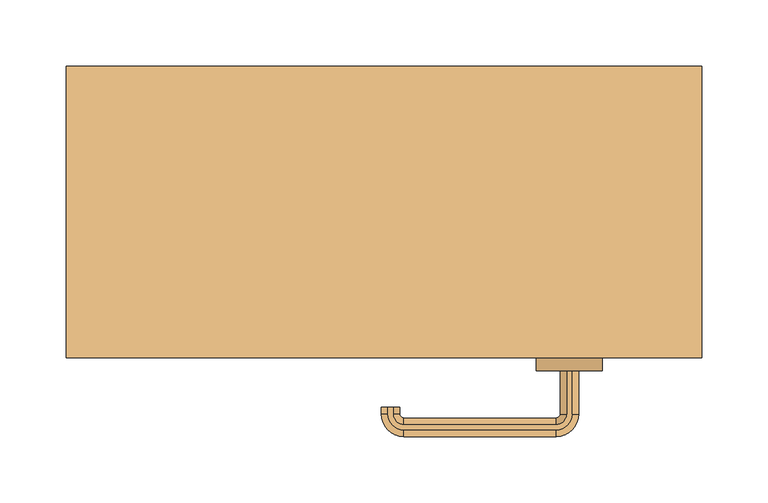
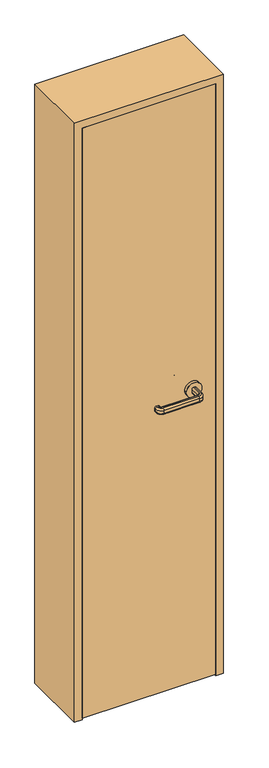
"""IFC4 building model written with IfcOpenShell, lengths in millimetres: door geometry, A1 片開 フラッシュ_A1枠 : SD4_H2000W400."""

import ifcopenshell
import ifcopenshell.guid

model = None  # the IFC model being written
_history = None  # IfcOwnerHistory: only IFC2X3 demands one
_inside = {}  # id of a spatial element -> (the spatial element, [elements in it])
_under = {}  # id of a project, library or spatial element -> (it, [spatial elements below it])
_declared = {}  # id of a project -> (the project, [libraries it declares])
_typed = {}  # id of a type object -> (the type object, [elements of that type])
_made_of = {}  # id of a material, layer set ... -> (it, [elements and type objects made of it])


def new_model(schema):
    """Start an empty IFC model of exactly this schema.

    Asked for "IFC4X3", IfcOpenShell would pick the latest addendum, in which some entities
    have other attributes; the version numbers below select the first issue.
    IFC2X3 requires an IfcOwnerHistory on every rooted entity: one is made here for all.
    """
    global model, _history
    if schema == "IFC4X3":
        model = ifcopenshell.file(schema_version=(4, 3, 0, 0))
    else:
        model = ifcopenshell.file(schema=schema)
    _inside.clear()
    _under.clear()
    _declared.clear()
    _typed.clear()
    _made_of.clear()
    _history = None
    if model.schema == "IFC2X3":
        org = make("IfcOrganization", Name="unknown")
        user = make(
            "IfcPersonAndOrganization",
            ThePerson=make("IfcPerson", FamilyName="unknown"),
            TheOrganization=org,
        )
        app = make(
            "IfcApplication",
            ApplicationDeveloper=org,
            Version="unknown",
            ApplicationFullName="unknown",
            ApplicationIdentifier="unknown",
        )
        _history = make(
            "IfcOwnerHistory",
            OwningUser=user,
            OwningApplication=app,
            ChangeAction="ADDED",
            CreationDate=0,
        )
    return model


def make(cls, **values):
    """One entity of the class cls with the attributes given. An attribute that is None is left unset."""
    return model.create_entity(
        cls, **{name: value for name, value in values.items() if value is not None}
    )


def rooted(cls, **values):
    """An entity with a GlobalId (a new one), such as an element, a storey or a relation."""
    return make(cls, GlobalId=ifcopenshell.guid.new(), OwnerHistory=_history, **values)


def si_unit(unit_type, name, prefix=None):
    """IfcSIUnit, for example si_unit("LENGTHUNIT", "METRE", prefix="MILLI")."""
    return make("IfcSIUnit", UnitType=unit_type, Prefix=prefix, Name=name)


def assignment(units):
    """IfcUnitAssignment: the units of a project."""
    return None if units is None else make("IfcUnitAssignment", Units=units)


def point(xyz):
    """IfcCartesianPoint."""
    return None if xyz is None else make("IfcCartesianPoint", Coordinates=xyz)


def direction(xyz):
    """IfcDirection."""
    return None if xyz is None else make("IfcDirection", DirectionRatios=xyz)


def frame(location, z_axis=None, x_axis=None):
    """IfcAxis2Placement3D, a coordinate frame: its origin and axes. An axis left out is left unset."""
    return make(
        "IfcAxis2Placement3D",
        Location=point(location),
        Axis=direction(z_axis),
        RefDirection=direction(x_axis),
    )


def frame_2d(location, x_axis=None):
    """IfcAxis2Placement2D, a coordinate frame in the plane: its origin and x axis."""
    return make(
        "IfcAxis2Placement2D", Location=point(location), RefDirection=direction(x_axis)
    )


def origin():
    """The frame at (0, 0, 0) with its axes left unset."""
    return frame((0.0, 0.0, 0.0))


def place(relative_to, where):
    """IfcLocalPlacement: puts the frame where relative to a parent placement (None: the world)."""
    return make(
        "IfcLocalPlacement", PlacementRelTo=relative_to, RelativePlacement=where
    )


def context(
    kind, dimensions, precision=None, world=None, true_north=None, identifier=None
):
    """IfcGeometricRepresentationContext, for example the 3D "Model" context."""
    return make(
        "IfcGeometricRepresentationContext",
        ContextIdentifier=identifier,
        ContextType=kind,
        CoordinateSpaceDimension=dimensions,
        Precision=precision,
        WorldCoordinateSystem=world,
        TrueNorth=true_north,
    )


def project(units=None, contexts=None):
    """IfcProject with its units and contexts."""
    return rooted(
        "IfcProject",
        Name="project",
        RepresentationContexts=contexts,
        UnitsInContext=assignment(units),
    )


def spatial(cls, under=None, at=None, **own):
    """A site, building, storey or space (cls), placed at a placement, below another one or the project."""
    s = rooted(cls, ObjectPlacement=at, **own)
    if under is not None:
        _under.setdefault(under.id(), (under, []))[1].append(s)
    return s


def polyline(points):
    """IfcPolyline through the points."""
    return make("IfcPolyline", Points=[point(p) for p in points])


def circle_curve(where, radius):
    """IfcCircle in the frame where."""
    return make("IfcCircle", Position=where, Radius=radius)


def ellipse_curve(where, semi_axis1, semi_axis2):
    """IfcEllipse in the frame where."""
    return make(
        "IfcEllipse", Position=where, SemiAxis1=semi_axis1, SemiAxis2=semi_axis2
    )


def trimmed(basis, trim1, trim2, sense, master):
    """IfcTrimmedCurve: the piece of a basis curve between two trims."""
    return make(
        "IfcTrimmedCurve",
        BasisCurve=basis,
        Trim1=trim1,
        Trim2=trim2,
        SenseAgreement=sense,
        MasterRepresentation=master,
    )


def segment(curve, same_sense, transition):
    """IfcCompositeCurveSegment."""
    return make(
        "IfcCompositeCurveSegment",
        Transition=transition,
        SameSense=same_sense,
        ParentCurve=curve,
    )


def composite_curve(segments, self_intersect=None):
    """IfcCompositeCurve: segments joined end to end."""
    return make("IfcCompositeCurve", Segments=segments, SelfIntersect=self_intersect)


def outline(outer, holes=None, kind="AREA"):
    """IfcArbitraryClosedProfileDef: a profile drawn as a closed curve; with holes, ...WithVoids."""
    if holes is None:
        return make("IfcArbitraryClosedProfileDef", ProfileType=kind, OuterCurve=outer)
    return make(
        "IfcArbitraryProfileDefWithVoids",
        ProfileType=kind,
        OuterCurve=outer,
        InnerCurves=holes,
    )


def extrude(swept, where, along, depth):
    """IfcExtrudedAreaSolid: the profile swept, set in the frame where, extruded along a direction by depth."""
    return make(
        "IfcExtrudedAreaSolid",
        SweptArea=swept,
        Position=where,
        ExtrudedDirection=direction(along),
        Depth=depth,
    )


def faces_of(points, faces, orient=None, outer=None):
    """IfcFace entities. A face is a list of loops; a loop is a list of indices into points, from 0.

    orient and outer hold one flag for each loop. By default every Orientation is true, the
    first loop of a face is its IfcFaceOuterBound and the others are IfcFaceBound.
    """
    made = []
    for i, loops in enumerate(faces):
        bounds = []
        for j, loop in enumerate(loops):
            is_outer = j == 0 if outer is None else outer[i][j]
            bounds.append(
                make(
                    "IfcFaceOuterBound" if is_outer else "IfcFaceBound",
                    Bound=make("IfcPolyLoop", Polygon=[points[k] for k in loop]),
                    Orientation=True if orient is None else orient[i][j],
                )
            )
        made.append(make("IfcFace", Bounds=bounds))
    return made


def faceted_brep(points, faces, orient=None, outer=None, voids=None):
    """IfcFacetedBrep: a solid bounded by flat faces; with voids (closed shells), ...WithVoids."""
    shared = [point(p) for p in points]
    hull = make("IfcClosedShell", CfsFaces=faces_of(shared, faces, orient, outer))
    if voids is None:
        return make("IfcFacetedBrep", Outer=hull)
    return make(
        "IfcFacetedBrepWithVoids",
        Outer=hull,
        Voids=[
            make(cls, CfsFaces=faces_of(shared, fs, o, b)) for cls, fs, o, b in voids
        ],
    )


def shape(context_of_items, identifier, shape_type, items):
    """IfcShapeRepresentation: the items that make up one representation, for example the "Body"."""
    return make(
        "IfcShapeRepresentation",
        ContextOfItems=context_of_items,
        RepresentationIdentifier=identifier,
        RepresentationType=shape_type,
        Items=items,
    )


def source(mapping_origin, context_of_items, identifier, shape_type, items):
    """IfcRepresentationMap: a shape defined once, which mapped items show again and again."""
    return make(
        "IfcRepresentationMap",
        MappingOrigin=mapping_origin,
        MappedRepresentation=shape(context_of_items, identifier, shape_type, items),
    )


def transform(
    local_origin,
    x_axis=None,
    y_axis=None,
    z_axis=None,
    scale=None,
    scale2=None,
    scale3=None,
    uniform=True,
):
    """IfcCartesianTransformationOperator3D, or its non-uniform kind. x_axis, y_axis, z_axis: its Axis1, 2, 3."""
    if uniform:
        return make(
            "IfcCartesianTransformationOperator3D",
            Axis1=direction(x_axis),
            Axis2=direction(y_axis),
            LocalOrigin=point(local_origin),
            Scale=scale,
            Axis3=direction(z_axis),
        )
    return make(
        "IfcCartesianTransformationOperator3DnonUniform",
        Axis1=direction(x_axis),
        Axis2=direction(y_axis),
        LocalOrigin=point(local_origin),
        Scale=scale,
        Axis3=direction(z_axis),
        Scale2=scale2,
        Scale3=scale3,
    )


def mapped(mapping_source, mapping_target):
    """IfcMappedItem: shows the shape of a source again, moved by a transform."""
    return make(
        "IfcMappedItem", MappingSource=mapping_source, MappingTarget=mapping_target
    )


def made_of(thing, what):
    """Note that an element or type object is made of a material, layer set ...; save() writes the relation."""
    if what is not None:
        _made_of.setdefault(what.id(), (what, []))[1].append(thing)
    return thing


def element(
    cls,
    number,
    at=None,
    inside=None,
    cuts=None,
    type_object=None,
    material=None,
    context=None,
    identifier="Body",
    shape_type=None,
    held_by="IfcProductDefinitionShape",
    body=None,
    shapes=None,
    **own,
):
    """One element of the class cls, such as IfcWall. Its Tag is "e" and its number.

    at: its placement. inside: the storey or other place that contains it. cuts: it is an
    opening in that element (IfcRelVoidsElement). A single representation is given by context,
    identifier, shape_type and body (its items); several are given by shapes. held_by: the class
    of the entity that holds the representations. save() writes the other relations.
    """
    e = rooted(cls, Tag="e%d" % number, ObjectPlacement=at, **own)
    if body is not None:
        shapes = [shape(context, identifier, shape_type, body)]
    if shapes is not None:
        e.Representation = make(held_by, Representations=shapes)
    if inside is not None:
        _inside.setdefault(inside.id(), (inside, []))[1].append(e)
    if cuts is not None:
        rooted(
            "IfcRelVoidsElement", RelatingBuildingElement=cuts, RelatedOpeningElement=e
        )
    if type_object is not None:
        _typed.setdefault(type_object.id(), (type_object, []))[1].append(e)
    return made_of(e, material)


def aggregate(whole, parts):
    """IfcRelAggregates: a whole, such as a stair, and the parts it consists of."""
    return rooted("IfcRelAggregates", RelatingObject=whole, RelatedObjects=parts)


def save(model, path):
    """Write the relations noted so far, then the file.

    IfcRelAggregates (storeys below a building ...), IfcRelContainedInSpatialStructure (elements
    in a storey), IfcRelDefinesByType, IfcRelAssociatesMaterial and IfcRelDeclares: one each for
    every whole, place, type object, material and project.
    """
    for whole, parts in _under.values():
        aggregate(whole, parts)
    for where, things in _inside.values():
        rooted(
            "IfcRelContainedInSpatialStructure",
            RelatedElements=things,
            RelatingStructure=where,
        )
    for kind, things in _typed.values():
        rooted("IfcRelDefinesByType", RelatedObjects=things, RelatingType=kind)
    for what, things in _made_of.values():
        rooted("IfcRelAssociatesMaterial", RelatedObjects=things, RelatingMaterial=what)
    for by, libraries in _declared.values():
        rooted("IfcRelDeclares", RelatingContext=by, RelatedDefinitions=libraries)
    model.write(path)


def plane_surface(at):
    """IfcPlane: the flat surface through the origin of the frame at, square to its z axis."""
    return make("IfcPlane", Position=at)


def cylinder_surface(at, radius):
    """IfcCylindricalSurface: all points at the distance radius from the z axis of the frame at."""
    return make("IfcCylindricalSurface", Position=at, Radius=radius)


def revolved_surface(curve, axis_point, axis_direction):
    """IfcSurfaceOfRevolution: the curve turned about the line through axis_point along axis_direction."""
    return make(
        "IfcSurfaceOfRevolution",
        SweptCurve=make("IfcArbitraryOpenProfileDef", ProfileType="CURVE", Curve=curve),
        AxisPosition=make("IfcAxis1Placement", Location=point(axis_point), Axis=direction(axis_direction)),
    )


def advanced_brep(points, edges, surfaces, faces):
    """IfcAdvancedBrep: a solid bounded by faces that lie on surfaces and meet in shared edges.

    An edge is (start, end): straight between two places in points (the first is 0);
    or (start, end, curve); or (start, end, curve, False) where it runs against its curve.
    A face is (place in surfaces, loops), or (place, loops, False) where it looks against
    its surface's normal. A loop lists edges by number (the first is 1), with a minus sign
    where the edge is run from its end to its start. The first loop is the outer one.
    """
    corners = [point(p) for p in points]
    vertices = [make("IfcVertexPoint", VertexGeometry=c) for c in corners]
    made = []
    for start, end, *more in edges:
        made.append(
            make(
                "IfcEdgeCurve",
                EdgeStart=vertices[start],
                EdgeEnd=vertices[end],
                EdgeGeometry=more[0] if more else make("IfcPolyline", Points=[corners[start], corners[end]]),
                SameSense=more[1] if len(more) > 1 else True,
            )
        )
    hull = []
    for where, loops, *sense in faces:
        bounds = []
        for j, loop in enumerate(loops):
            ring = [make("IfcOrientedEdge", EdgeElement=made[abs(k) - 1], Orientation=k > 0) for k in loop]
            bounds.append(
                make(
                    "IfcFaceOuterBound" if j == 0 else "IfcFaceBound",
                    Bound=make("IfcEdgeLoop", EdgeList=ring),
                    Orientation=True,
                )
            )
        hull.append(make("IfcAdvancedFace", Bounds=bounds, FaceSurface=surfaces[where], SameSense=sense[0] if sense else True))
    return make("IfcAdvancedBrep", Outer=make("IfcClosedShell", CfsFaces=hull))


def door_b2e5d67d(model_context):
    return source(origin(), model_context, "Body", "SolidModel", [
        advanced_brep(
        [(142.0, -120.0, 1015.0), (147.0, -120.0, 1010.0), (147.0, -120.0, 1000.0477623), (142.0, -120.0, 995.0477623), (138.0, -120.0, 995.0477623), (133.0, -120.0, 1000.0477623), (133.0, -120.0, 1010.0), (138.0, -120.0, 1015.0), (142.0, -152.5, 1015.0), (147.0, -152.5, 1010.0), (147.0, -152.5, 1000.0477623), (142.0, -152.5, 995.0477623), (130.0, -164.5, 995.0477623), (15.0, -164.5, 995.0477623), (3.0, -152.5, 995.0477623), (3.0, -147.5, 995.0477623), (7.0, -147.5, 995.0477623), (7.0, -152.5, 995.0477623), (15.0, -160.5, 995.0477623), (130.0, -160.5, 995.0477623), (138.0, -152.5, 995.0477623), (133.0, -152.5, 1000.0477623), (133.0, -152.5, 1010.0), (138.0, -152.5, 1015.0), (130.0, -160.5, 1015.0), (15.0, -160.5, 1015.0), (7.0, -152.5, 1015.0), (7.0, -147.5, 1015.0), (3.0, -147.5, 1015.0), (3.0, -152.5, 1015.0), (15.0, -164.5, 1015.0), (130.0, -164.5, 1015.0), (130.0, -169.5, 1010.0), (130.0, -169.5, 1000.0477623), (130.0, -155.5, 1000.0477623), (130.0, -155.5, 1010.0), (15.0, -169.5, 1010.0), (15.0, -169.5, 1000.0477623), (15.0, -155.5, 1000.0477623), (15.0, -155.5, 1010.0), (-2.0, -152.5, 1010.0), (-2.0, -152.5, 1000.0477623), (12.0, -152.5, 1000.0477623), (12.0, -152.5, 1010.0), (12.0, -147.5, 1010.0), (12.0, -147.5, 1000.0477623), (-2.0, -147.5, 1000.0477623), (-2.0, -147.5, 1010.0)],
        [
            (0, 1, circle_curve(frame((142.0, -120.0, 1010.0), z_axis=(0.0, 1.0, 0.0), x_axis=(1.0, 0.0, 0.0)), 5.0)),
            (1, 2),
            (2, 3, circle_curve(frame((142.0, -120.0, 1000.0477623), z_axis=(0.0, 1.0, 0.0), x_axis=(1.0, 0.0, 0.0)), 5.0)),
            (3, 4),
            (4, 5, circle_curve(frame((138.0, -120.0, 1000.0477623), z_axis=(0.0, 1.0, 0.0), x_axis=(1.0, 0.0, 0.0)), 5.0)),
            (5, 6),
            (6, 7, circle_curve(frame((138.0, -120.0, 1010.0), z_axis=(0.0, 1.0, 0.0), x_axis=(1.0, 0.0, 0.0)), 5.0)),
            (7, 0),
            (0, 8),
            (8, 9, circle_curve(frame((142.0, -152.5, 1010.0), z_axis=(0.0, 1.0, 0.0), x_axis=(1.0, 0.0, 0.0)), 5.0)),
            (9, 1),
            (9, 10),
            (10, 2),
            (10, 11, circle_curve(frame((142.0, -152.5, 1000.0477623), z_axis=(0.0, 1.0, 0.0), x_axis=(1.0, 0.0, 0.0)), 5.0)),
            (11, 3),
            (11, 12, circle_curve(frame((130.0, -152.5, 995.0477623), z_axis=(0.0, 0.0, -1.0), x_axis=(1.0, 0.0, 0.0)), 12.0)),
            (12, 13),
            (13, 14, circle_curve(frame((15.0, -152.5, 995.0477623), z_axis=(0.0, 0.0, -1.0), x_axis=(0.0, -1.0, 0.0)), 12.0)),
            (14, 15),
            (15, 16),
            (16, 17),
            (17, 18, circle_curve(frame((15.0, -152.5, 995.0477623), z_axis=(0.0, 0.0, 1.0), x_axis=(0.0, -1.0, 0.0)), 8.0)),
            (18, 19),
            (19, 20, circle_curve(frame((130.0, -152.5, 995.0477623), z_axis=(0.0, 0.0, 1.0), x_axis=(1.0, 0.0, 0.0)), 8.0)),
            (20, 4),
            (20, 21, circle_curve(frame((138.0, -152.5, 1000.0477623), z_axis=(0.0, 1.0, 0.0), x_axis=(1.0, 0.0, 0.0)), 5.0)),
            (21, 5),
            (21, 22),
            (22, 6),
            (22, 23, circle_curve(frame((138.0, -152.5, 1010.0), z_axis=(0.0, 1.0, 0.0), x_axis=(1.0, 0.0, 0.0)), 5.0)),
            (23, 7),
            (23, 24, circle_curve(frame((130.0, -152.5, 1015.0), z_axis=(0.0, 0.0, -1.0), x_axis=(1.0, 0.0, 0.0)), 8.0)),
            (24, 25),
            (25, 26, circle_curve(frame((15.0, -152.5, 1015.0), z_axis=(0.0, 0.0, -1.0), x_axis=(0.0, -1.0, 0.0)), 8.0)),
            (26, 27),
            (27, 28),
            (28, 29),
            (29, 30, circle_curve(frame((15.0, -152.5, 1015.0), z_axis=(0.0, 0.0, 1.0), x_axis=(0.0, -1.0, 0.0)), 12.0)),
            (30, 31),
            (31, 8, circle_curve(frame((130.0, -152.5, 1015.0), z_axis=(0.0, 0.0, 1.0), x_axis=(1.0, 0.0, 0.0)), 12.0)),
            (32, 9, circle_curve(frame((130.0, -152.5, 1010.0), z_axis=(0.0, 0.0, 1.0), x_axis=(1.0, 0.0, 0.0)), 17.0)),
            (31, 32, circle_curve(frame((130.0, -164.5, 1010.0), z_axis=(1.0, 0.0, 0.0), x_axis=(0.0, -1.0, 0.0)), 5.0)),
            (33, 10, circle_curve(frame((130.0, -152.5, 1000.0477623), z_axis=(0.0, 0.0, 1.0), x_axis=(1.0, 0.0, 0.0)), 17.0)),
            (32, 33),
            (33, 12, circle_curve(frame((130.0, -164.5, 1000.0477623), z_axis=(1.0, 0.0, 0.0), x_axis=(0.0, -1.0, 0.0)), 5.0)),
            (34, 21, circle_curve(frame((130.0, -152.5, 1000.0477623), z_axis=(0.0, 0.0, 1.0), x_axis=(1.0, 0.0, 0.0)), 3.0)),
            (19, 34, circle_curve(frame((130.0, -160.5, 1000.0477623), z_axis=(1.0, 0.0, 0.0), x_axis=(0.0, -1.0, 0.0)), 5.0)),
            (35, 22, circle_curve(frame((130.0, -152.5, 1010.0), z_axis=(0.0, 0.0, 1.0), x_axis=(1.0, 0.0, 0.0)), 3.0)),
            (34, 35),
            (35, 24, circle_curve(frame((130.0, -160.5, 1010.0), z_axis=(1.0, 0.0, 0.0), x_axis=(0.0, -1.0, 0.0)), 5.0)),
            (30, 36, circle_curve(frame((15.0, -164.5, 1010.0), z_axis=(1.0, 0.0, 0.0), x_axis=(0.0, -1.0, 0.0)), 5.0)),
            (36, 32),
            (36, 37),
            (37, 33),
            (37, 13, circle_curve(frame((15.0, -164.5, 1000.0477623), z_axis=(1.0, 0.0, 0.0), x_axis=(0.0, -1.0, 0.0)), 5.0)),
            (18, 38, circle_curve(frame((15.0, -160.5, 1000.0477623), z_axis=(1.0, 0.0, 0.0), x_axis=(0.0, -1.0, 0.0)), 5.0)),
            (38, 34),
            (38, 39),
            (39, 35),
            (39, 25, circle_curve(frame((15.0, -160.5, 1010.0), z_axis=(1.0, 0.0, 0.0), x_axis=(0.0, -1.0, 0.0)), 5.0)),
            (40, 36, circle_curve(frame((15.0, -152.5, 1010.0), z_axis=(0.0, 0.0, 1.0), x_axis=(0.0, -1.0, 0.0)), 17.0)),
            (29, 40, circle_curve(frame((3.0, -152.5, 1010.0), z_axis=(0.0, -1.0, 0.0), x_axis=(-1.0, 0.0, 0.0)), 5.0)),
            (41, 37, circle_curve(frame((15.0, -152.5, 1000.0477623), z_axis=(0.0, 0.0, 1.0), x_axis=(0.0, -1.0, 0.0)), 17.0)),
            (40, 41),
            (41, 14, circle_curve(frame((3.0, -152.5, 1000.0477623), z_axis=(0.0, -1.0, 0.0), x_axis=(-1.0, 0.0, 0.0)), 5.0)),
            (42, 38, circle_curve(frame((15.0, -152.5, 1000.0477623), z_axis=(0.0, 0.0, 1.0), x_axis=(0.0, -1.0, 0.0)), 3.0)),
            (17, 42, circle_curve(frame((7.0, -152.5, 1000.0477623), z_axis=(0.0, -1.0, 0.0), x_axis=(-1.0, 0.0, 0.0)), 5.0)),
            (43, 39, circle_curve(frame((15.0, -152.5, 1010.0), z_axis=(0.0, 0.0, 1.0), x_axis=(0.0, -1.0, 0.0)), 3.0)),
            (42, 43),
            (43, 26, circle_curve(frame((7.0, -152.5, 1010.0), z_axis=(0.0, -1.0, 0.0), x_axis=(-1.0, 0.0, 0.0)), 5.0)),
            (27, 44, circle_curve(frame((7.0, -147.5, 1010.0), z_axis=(0.0, 1.0, 0.0), x_axis=(-1.0, 0.0, 0.0)), 5.0)),
            (44, 45),
            (45, 16, circle_curve(frame((7.0, -147.5, 1000.0477623), z_axis=(0.0, 1.0, 0.0), x_axis=(-1.0, 0.0, 0.0)), 5.0)),
            (15, 46, circle_curve(frame((3.0, -147.5, 1000.0477623), z_axis=(0.0, 1.0, 0.0), x_axis=(-1.0, 0.0, 0.0)), 5.0)),
            (46, 47),
            (47, 28, circle_curve(frame((3.0, -147.5, 1010.0), z_axis=(0.0, 1.0, 0.0), x_axis=(-1.0, 0.0, 0.0)), 5.0)),
            (47, 40),
            (46, 41),
            (45, 42),
            (44, 43),
        ],
        [
            plane_surface(frame((150.198039, -120.0, 1005.0), z_axis=(0.0, 1.0, 0.0), x_axis=(0.0, 0.0, 1.0))),
            cylinder_surface(frame((142.0, -120.0, 1010.0), z_axis=(0.0, 1.0, 0.0), x_axis=(1.0, 0.0, 0.0)), 5.0),
            plane_surface(frame((147.0, -120.0, 1010.0), z_axis=(1.0, 0.0, 0.0), x_axis=(0.0, -1.0, 0.0))),
            cylinder_surface(frame((142.0, -120.0, 1000.0477623), z_axis=(0.0, 1.0, 0.0), x_axis=(1.0, 0.0, 0.0)), 5.0),
            plane_surface(frame((142.0, -120.0, 995.0477623), z_axis=(0.0, 0.0, -1.0), x_axis=(0.0, -1.0, 0.0))),
            cylinder_surface(frame((138.0, -120.0, 1000.0477623), z_axis=(0.0, 1.0, 0.0), x_axis=(1.0, 0.0, 0.0)), 5.0),
            plane_surface(frame((133.0, -120.0, 1000.0477623), z_axis=(-1.0, 0.0, 0.0), x_axis=(0.0, -1.0, 0.0))),
            cylinder_surface(frame((138.0, -120.0, 1010.0), z_axis=(0.0, 1.0, 0.0), x_axis=(1.0, 0.0, 0.0)), 5.0),
            plane_surface(frame((138.0, -120.0, 1015.0), z_axis=(0.0, 0.0, 1.0), x_axis=(0.0, -1.0, 0.0))),
            revolved_surface(trimmed(ellipse_curve(frame((142.0, -152.5, 1010.0), z_axis=(0.0, 1.0, 0.0), x_axis=(1.0, 0.0, 0.0)), 5.0, 5.0), [point((142.0, -152.5, 1015.0))], [point((147.0, -152.5, 1010.0))], True, "CARTESIAN"), (130.0, -152.5, 1005.0), (0.0, 0.0, -1.0)),
            cylinder_surface(frame((130.0, -152.5, 1005.0), z_axis=(0.0, 0.0, -1.0), x_axis=(1.0, 0.0, 0.0)), 17.0),
            revolved_surface(trimmed(ellipse_curve(frame((142.0, -152.5, 1000.0477623), z_axis=(0.0, 1.0, 0.0), x_axis=(1.0, 0.0, 0.0)), 5.0, 5.0), [point((147.0, -152.5, 1000.0477623))], [point((142.0, -152.5, 995.0477623))], True, "CARTESIAN"), (130.0, -152.5, 1005.0), (0.0, 0.0, -1.0)),
            revolved_surface(trimmed(ellipse_curve(frame((138.0, -152.5, 1000.0477623), z_axis=(0.0, 1.0, 0.0), x_axis=(1.0, 0.0, 0.0)), 5.0, 5.0), [point((138.0, -152.5, 995.0477623))], [point((133.0, -152.5, 1000.0477623))], True, "CARTESIAN"), (130.0, -152.5, 1005.0), (0.0, 0.0, -1.0)),
            revolved_surface(polyline([(133.0, -152.5, 1000.0477623), (133.0, -152.5, 1010.0)]), (130.0, -152.5, 1005.0), (0.0, 0.0, -1.0)),
            revolved_surface(trimmed(ellipse_curve(frame((138.0, -152.5, 1010.0), z_axis=(0.0, 1.0, 0.0), x_axis=(1.0, 0.0, 0.0)), 5.0, 5.0), [point((133.0, -152.5, 1010.0))], [point((138.0, -152.5, 1015.0))], True, "CARTESIAN"), (130.0, -152.5, 1005.0), (0.0, 0.0, -1.0)),
            cylinder_surface(frame((130.0, -164.5, 1010.0), z_axis=(1.0, 0.0, 0.0), x_axis=(0.0, -1.0, 0.0)), 5.0),
            plane_surface(frame((130.0, -169.5, 1010.0), z_axis=(0.0, -1.0, 0.0), x_axis=(-1.0, 0.0, 0.0))),
            cylinder_surface(frame((130.0, -164.5, 1000.0477623), z_axis=(1.0, 0.0, 0.0), x_axis=(0.0, -1.0, 0.0)), 5.0),
            cylinder_surface(frame((130.0, -160.5, 1000.0477623), z_axis=(1.0, 0.0, 0.0), x_axis=(0.0, -1.0, 0.0)), 5.0),
            plane_surface(frame((130.0, -155.5, 1000.0477623), z_axis=(0.0, 1.0, 0.0), x_axis=(-1.0, 0.0, 0.0))),
            cylinder_surface(frame((130.0, -160.5, 1010.0), z_axis=(1.0, 0.0, 0.0), x_axis=(0.0, -1.0, 0.0)), 5.0),
            revolved_surface(trimmed(ellipse_curve(frame((15.0, -164.5, 1010.0), z_axis=(1.0, 0.0, 0.0), x_axis=(0.0, -1.0, 0.0)), 5.0, 5.0), [point((15.0, -164.5, 1015.0))], [point((15.0, -169.5, 1010.0))], True, "CARTESIAN"), (15.0, -152.5, 1005.0), (0.0, 0.0, -1.0)),
            cylinder_surface(frame((15.0, -152.5, 1005.0), z_axis=(0.0, 0.0, -1.0), x_axis=(0.0, -1.0, 0.0)), 17.0),
            revolved_surface(trimmed(ellipse_curve(frame((15.0, -164.5, 1000.0477623), z_axis=(1.0, 0.0, 0.0), x_axis=(0.0, -1.0, 0.0)), 5.0, 5.0), [point((15.0, -169.5, 1000.0477623))], [point((15.0, -164.5, 995.0477623))], True, "CARTESIAN"), (15.0, -152.5, 1005.0), (0.0, 0.0, -1.0)),
            revolved_surface(trimmed(ellipse_curve(frame((15.0, -160.5, 1000.0477623), z_axis=(1.0, 0.0, 0.0), x_axis=(0.0, -1.0, 0.0)), 5.0, 5.0), [point((15.0, -160.5, 995.0477623))], [point((15.0, -155.5, 1000.0477623))], True, "CARTESIAN"), (15.0, -152.5, 1005.0), (0.0, 0.0, -1.0)),
            revolved_surface(polyline([(15.0, -155.5, 1000.0477623), (15.0, -155.5, 1010.0)]), (15.0, -152.5, 1005.0), (0.0, 0.0, -1.0)),
            revolved_surface(trimmed(ellipse_curve(frame((15.0, -160.5, 1010.0), z_axis=(1.0, 0.0, 0.0), x_axis=(0.0, -1.0, 0.0)), 5.0, 5.0), [point((15.0, -155.5, 1010.0))], [point((15.0, -160.5, 1015.0))], True, "CARTESIAN"), (15.0, -152.5, 1005.0), (0.0, 0.0, -1.0)),
            plane_surface(frame((15.198039, -147.5, 1005.0), z_axis=(0.0, 1.0, 0.0), x_axis=(0.0, 0.0, -1.0))),
            cylinder_surface(frame((3.0, -152.5, 1010.0), z_axis=(0.0, -1.0, 0.0), x_axis=(-1.0, 0.0, 0.0)), 5.0),
            plane_surface(frame((-2.0, -152.5, 1010.0), z_axis=(-1.0, 0.0, 0.0), x_axis=(0.0, 1.0, 0.0))),
            cylinder_surface(frame((3.0, -152.5, 1000.0477623), z_axis=(0.0, -1.0, 0.0), x_axis=(-1.0, 0.0, 0.0)), 5.0),
            cylinder_surface(frame((7.0, -152.5, 1000.0477623), z_axis=(0.0, -1.0, 0.0), x_axis=(-1.0, 0.0, 0.0)), 5.0),
            plane_surface(frame((12.0, -152.5, 1000.0477623), z_axis=(1.0, 0.0, 0.0), x_axis=(0.0, 1.0, 0.0))),
            cylinder_surface(frame((7.0, -152.5, 1010.0), z_axis=(0.0, -1.0, 0.0), x_axis=(-1.0, 0.0, 0.0)), 5.0),
        ],
        [
            (0, [[1, 2, 3, 4, 5, 6, 7, 8]]),
            (1, [[-1, 9, 10, 11]]),
            (2, [[-2, -11, 12, 13]]),
            (3, [[-3, -13, 14, 15]]),
            (4, [[-4, -15, 16, 17, 18, 19, 20, 21, 22, 23, 24, 25]]),
            (5, [[-5, -25, 26, 27]]),
            (6, [[-6, -27, 28, 29]]),
            (7, [[-7, -29, 30, 31]]),
            (8, [[-8, -31, 32, 33, 34, 35, 36, 37, 38, 39, 40, -9]]),
            (9, [[41, -10, -40, 42]]),
            (10, [[43, -12, -41, 44]]),
            (11, [[-16, -14, -43, 45]]),
            (12, [[46, -26, -24, 47]]),
            (13, [[48, -28, -46, 49]]),
            (14, [[-32, -30, -48, 50]]),
            (15, [[-42, -39, 51, 52]]),
            (16, [[-44, -52, 53, 54]]),
            (17, [[-45, -54, 55, -17]]),
            (18, [[-47, -23, 56, 57]]),
            (19, [[-49, -57, 58, 59]]),
            (20, [[-50, -59, 60, -33]]),
            (21, [[61, -51, -38, 62]]),
            (22, [[63, -53, -61, 64]]),
            (23, [[-18, -55, -63, 65]]),
            (24, [[66, -56, -22, 67]]),
            (25, [[68, -58, -66, 69]]),
            (26, [[-34, -60, -68, 70]]),
            (27, [[-36, 71, 72, 73, -20, 74, 75, 76]]),
            (28, [[-62, -37, -76, 77]]),
            (29, [[-64, -77, -75, 78]]),
            (30, [[-65, -78, -74, -19]]),
            (31, [[-67, -21, -73, 79]]),
            (32, [[-69, -79, -72, 80]]),
            (33, [[-70, -80, -71, -35]]),
        ],
    ),
        advanced_brep(
        [(138.0, -55.0, 995.0), (142.0, -55.0, 995.0), (147.0, -55.0, 1000.0), (147.0, -55.0, 1010.0), (142.0, -55.0, 1015.0), (138.0, -55.0, 1015.0), (133.0, -55.0, 1010.0), (133.0, -55.0, 1000.0), (138.0, -22.5, 995.0), (130.0, -14.5, 995.0), (15.0, -14.5, 995.0), (7.0, -22.5, 995.0), (7.0, -27.5, 995.0), (3.0, -27.5, 995.0), (3.0, -22.5, 995.0), (15.0, -10.5, 995.0), (130.0, -10.5, 995.0), (142.0, -22.5, 995.0), (147.0, -22.5, 1000.0), (147.0, -22.5, 1010.0), (142.0, -22.5, 1015.0), (130.0, -10.5, 1015.0), (15.0, -10.5, 1015.0), (3.0, -22.5, 1015.0), (3.0, -27.5, 1015.0), (7.0, -27.5, 1015.0), (7.0, -22.5, 1015.0), (15.0, -14.5, 1015.0), (130.0, -14.5, 1015.0), (138.0, -22.5, 1015.0), (133.0, -22.5, 1010.0), (133.0, -22.5, 1000.0), (130.0, -5.5, 1000.0), (130.0, -5.5, 1010.0), (130.0, -19.5, 1010.0), (130.0, -19.5, 1000.0), (15.0, -5.5, 1000.0), (15.0, -5.5, 1010.0), (15.0, -19.5, 1010.0), (15.0, -19.5, 1000.0), (-2.0, -22.5, 1000.0), (-2.0, -22.5, 1010.0), (12.0, -22.5, 1010.0), (12.0, -22.5, 1000.0), (12.0, -27.5, 1000.0), (12.0, -27.5, 1010.0), (-2.0, -27.5, 1010.0), (-2.0, -27.5, 1000.0)],
        [
            (0, 1),
            (1, 2, circle_curve(frame((142.0, -55.0, 1000.0), z_axis=(0.0, -1.0, 0.0), x_axis=(-1.0, 0.0, 0.0)), 5.0)),
            (2, 3),
            (3, 4, circle_curve(frame((142.0, -55.0, 1010.0), z_axis=(0.0, -1.0, 0.0), x_axis=(-1.0, 0.0, 0.0)), 5.0)),
            (4, 5),
            (5, 6, circle_curve(frame((138.0, -55.0, 1010.0), z_axis=(0.0, -1.0, 0.0), x_axis=(-1.0, 0.0, 0.0)), 5.0)),
            (6, 7),
            (7, 0, circle_curve(frame((138.0, -55.0, 1000.0), z_axis=(0.0, -1.0, 0.0), x_axis=(-1.0, 0.0, 0.0)), 5.0)),
            (0, 8),
            (8, 9, circle_curve(frame((130.0, -22.5, 995.0), z_axis=(0.0, 0.0, 1.0), x_axis=(1.0, 0.0, 0.0)), 8.0)),
            (9, 10),
            (10, 11, circle_curve(frame((15.0, -22.5, 995.0), z_axis=(0.0, 0.0, 1.0), x_axis=(0.0, 1.0, 0.0)), 8.0)),
            (11, 12),
            (12, 13),
            (13, 14),
            (14, 15, circle_curve(frame((15.0, -22.5, 995.0), z_axis=(0.0, 0.0, -1.0), x_axis=(0.0, 1.0, 0.0)), 12.0)),
            (15, 16),
            (16, 17, circle_curve(frame((130.0, -22.5, 995.0), z_axis=(0.0, 0.0, -1.0), x_axis=(1.0, 0.0, 0.0)), 12.0)),
            (17, 1),
            (17, 18, circle_curve(frame((142.0, -22.5, 1000.0), z_axis=(0.0, -1.0, 0.0), x_axis=(-1.0, 0.0, 0.0)), 5.0)),
            (18, 2),
            (18, 19),
            (19, 3),
            (19, 20, circle_curve(frame((142.0, -22.5, 1010.0), z_axis=(0.0, -1.0, 0.0), x_axis=(-1.0, 0.0, 0.0)), 5.0)),
            (20, 4),
            (20, 21, circle_curve(frame((130.0, -22.5, 1015.0), z_axis=(0.0, 0.0, 1.0), x_axis=(1.0, 0.0, 0.0)), 12.0)),
            (21, 22),
            (22, 23, circle_curve(frame((15.0, -22.5, 1015.0), z_axis=(0.0, 0.0, 1.0), x_axis=(0.0, 1.0, 0.0)), 12.0)),
            (23, 24),
            (24, 25),
            (25, 26),
            (26, 27, circle_curve(frame((15.0, -22.5, 1015.0), z_axis=(0.0, 0.0, -1.0), x_axis=(0.0, 1.0, 0.0)), 8.0)),
            (27, 28),
            (28, 29, circle_curve(frame((130.0, -22.5, 1015.0), z_axis=(0.0, 0.0, -1.0), x_axis=(1.0, 0.0, 0.0)), 8.0)),
            (29, 5),
            (29, 30, circle_curve(frame((138.0, -22.5, 1010.0), z_axis=(0.0, -1.0, 0.0), x_axis=(-1.0, 0.0, 0.0)), 5.0)),
            (30, 6),
            (30, 31),
            (31, 7),
            (31, 8, circle_curve(frame((138.0, -22.5, 1000.0), z_axis=(0.0, -1.0, 0.0), x_axis=(-1.0, 0.0, 0.0)), 5.0)),
            (32, 18, circle_curve(frame((130.0, -22.5, 1000.0), z_axis=(0.0, 0.0, -1.0), x_axis=(1.0, 0.0, 0.0)), 17.0)),
            (16, 32, circle_curve(frame((130.0, -10.5, 1000.0), z_axis=(1.0, 0.0, 0.0), x_axis=(0.0, -1.0, 0.0)), 5.0)),
            (33, 19, circle_curve(frame((130.0, -22.5, 1010.0), z_axis=(0.0, 0.0, -1.0), x_axis=(1.0, 0.0, 0.0)), 17.0)),
            (32, 33),
            (33, 21, circle_curve(frame((130.0, -10.5, 1010.0), z_axis=(1.0, 0.0, 0.0), x_axis=(0.0, -1.0, 0.0)), 5.0)),
            (34, 30, circle_curve(frame((130.0, -22.5, 1010.0), z_axis=(0.0, 0.0, -1.0), x_axis=(1.0, 0.0, 0.0)), 3.0)),
            (28, 34, circle_curve(frame((130.0, -14.5, 1010.0), z_axis=(1.0, 0.0, 0.0), x_axis=(0.0, -1.0, 0.0)), 5.0)),
            (35, 31, circle_curve(frame((130.0, -22.5, 1000.0), z_axis=(0.0, 0.0, -1.0), x_axis=(1.0, 0.0, 0.0)), 3.0)),
            (34, 35),
            (35, 9, circle_curve(frame((130.0, -14.5, 1000.0), z_axis=(1.0, 0.0, 0.0), x_axis=(0.0, -1.0, 0.0)), 5.0)),
            (15, 36, circle_curve(frame((15.0, -10.5, 1000.0), z_axis=(1.0, 0.0, 0.0), x_axis=(0.0, -1.0, 0.0)), 5.0)),
            (36, 32),
            (36, 37),
            (37, 33),
            (37, 22, circle_curve(frame((15.0, -10.5, 1010.0), z_axis=(1.0, 0.0, 0.0), x_axis=(0.0, -1.0, 0.0)), 5.0)),
            (27, 38, circle_curve(frame((15.0, -14.5, 1010.0), z_axis=(1.0, 0.0, 0.0), x_axis=(0.0, -1.0, 0.0)), 5.0)),
            (38, 34),
            (38, 39),
            (39, 35),
            (39, 10, circle_curve(frame((15.0, -14.5, 1000.0), z_axis=(1.0, 0.0, 0.0), x_axis=(0.0, -1.0, 0.0)), 5.0)),
            (40, 36, circle_curve(frame((15.0, -22.5, 1000.0), z_axis=(0.0, 0.0, -1.0), x_axis=(0.0, 1.0, 0.0)), 17.0)),
            (14, 40, circle_curve(frame((3.0, -22.5, 1000.0), z_axis=(0.0, 1.0, 0.0), x_axis=(1.0, 0.0, 0.0)), 5.0)),
            (41, 37, circle_curve(frame((15.0, -22.5, 1010.0), z_axis=(0.0, 0.0, -1.0), x_axis=(0.0, 1.0, 0.0)), 17.0)),
            (40, 41),
            (41, 23, circle_curve(frame((3.0, -22.5, 1010.0), z_axis=(0.0, 1.0, 0.0), x_axis=(1.0, 0.0, 0.0)), 5.0)),
            (42, 38, circle_curve(frame((15.0, -22.5, 1010.0), z_axis=(0.0, 0.0, -1.0), x_axis=(0.0, 1.0, 0.0)), 3.0)),
            (26, 42, circle_curve(frame((7.0, -22.5, 1010.0), z_axis=(0.0, 1.0, 0.0), x_axis=(1.0, 0.0, 0.0)), 5.0)),
            (43, 39, circle_curve(frame((15.0, -22.5, 1000.0), z_axis=(0.0, 0.0, -1.0), x_axis=(0.0, 1.0, 0.0)), 3.0)),
            (42, 43),
            (43, 11, circle_curve(frame((7.0, -22.5, 1000.0), z_axis=(0.0, 1.0, 0.0), x_axis=(1.0, 0.0, 0.0)), 5.0)),
            (12, 44, circle_curve(frame((7.0, -27.5, 1000.0), z_axis=(0.0, -1.0, 0.0), x_axis=(1.0, 0.0, 0.0)), 5.0)),
            (44, 45),
            (45, 25, circle_curve(frame((7.0, -27.5, 1010.0), z_axis=(0.0, -1.0, 0.0), x_axis=(1.0, 0.0, 0.0)), 5.0)),
            (24, 46, circle_curve(frame((3.0, -27.5, 1010.0), z_axis=(0.0, -1.0, 0.0), x_axis=(1.0, 0.0, 0.0)), 5.0)),
            (46, 47),
            (47, 13, circle_curve(frame((3.0, -27.5, 1000.0), z_axis=(0.0, -1.0, 0.0), x_axis=(1.0, 0.0, 0.0)), 5.0)),
            (47, 40),
            (46, 41),
            (45, 42),
            (44, 43),
        ],
        [
            plane_surface(frame((150.198039, -55.0, 1005.0), z_axis=(0.0, -1.0, 0.0), x_axis=(0.0, 0.0, -1.0))),
            plane_surface(frame((138.0, -55.0, 995.0), z_axis=(0.0, 0.0, -1.0), x_axis=(0.0, 1.0, 0.0))),
            cylinder_surface(frame((142.0, -55.0, 1000.0), z_axis=(0.0, -1.0, 0.0), x_axis=(-1.0, 0.0, 0.0)), 5.0),
            plane_surface(frame((147.0, -55.0, 1000.0), z_axis=(1.0, 0.0, 0.0), x_axis=(0.0, 1.0, 0.0))),
            cylinder_surface(frame((142.0, -55.0, 1010.0), z_axis=(0.0, -1.0, 0.0), x_axis=(-1.0, 0.0, 0.0)), 5.0),
            plane_surface(frame((142.0, -55.0, 1015.0), z_axis=(0.0, 0.0, 1.0), x_axis=(0.0, 1.0, 0.0))),
            cylinder_surface(frame((138.0, -55.0, 1010.0), z_axis=(0.0, -1.0, 0.0), x_axis=(-1.0, 0.0, 0.0)), 5.0),
            plane_surface(frame((133.0, -55.0, 1010.0), z_axis=(-1.0, 0.0, 0.0), x_axis=(0.0, 1.0, 0.0))),
            cylinder_surface(frame((138.0, -55.0, 1000.0), z_axis=(0.0, -1.0, 0.0), x_axis=(-1.0, 0.0, 0.0)), 5.0),
            revolved_surface(trimmed(ellipse_curve(frame((142.0, -22.5, 1000.0), z_axis=(0.0, -1.0, 0.0), x_axis=(-1.0, 0.0, 0.0)), 5.0, 5.0), [point((142.0, -22.5, 995.0))], [point((147.0, -22.5, 1000.0))], True, "CARTESIAN"), (130.0, -22.5, 1005.0), (0.0, 0.0, 1.0)),
            cylinder_surface(frame((130.0, -22.5, 1005.0), z_axis=(0.0, 0.0, 1.0), x_axis=(1.0, 0.0, 0.0)), 17.0),
            revolved_surface(trimmed(ellipse_curve(frame((142.0, -22.5, 1010.0), z_axis=(0.0, -1.0, 0.0), x_axis=(-1.0, 0.0, 0.0)), 5.0, 5.0), [point((147.0, -22.5, 1010.0))], [point((142.0, -22.5, 1015.0))], True, "CARTESIAN"), (130.0, -22.5, 1005.0), (0.0, 0.0, 1.0)),
            revolved_surface(trimmed(ellipse_curve(frame((138.0, -22.5, 1010.0), z_axis=(0.0, -1.0, 0.0), x_axis=(-1.0, 0.0, 0.0)), 5.0, 5.0), [point((138.0, -22.5, 1015.0))], [point((133.0, -22.5, 1010.0))], True, "CARTESIAN"), (130.0, -22.5, 1005.0), (0.0, 0.0, 1.0)),
            revolved_surface(polyline([(133.0, -22.5, 1010.0), (133.0, -22.5, 1000.0)]), (130.0, -22.5, 1005.0), (0.0, 0.0, 1.0)),
            revolved_surface(trimmed(ellipse_curve(frame((138.0, -22.5, 1000.0), z_axis=(0.0, -1.0, 0.0), x_axis=(-1.0, 0.0, 0.0)), 5.0, 5.0), [point((133.0, -22.5, 1000.0))], [point((138.0, -22.5, 995.0))], True, "CARTESIAN"), (130.0, -22.5, 1005.0), (0.0, 0.0, 1.0)),
            cylinder_surface(frame((130.0, -10.5, 1000.0), z_axis=(1.0, 0.0, 0.0), x_axis=(0.0, -1.0, 0.0)), 5.0),
            plane_surface(frame((130.0, -5.5, 1000.0), z_axis=(0.0, 1.0, 0.0), x_axis=(-1.0, 0.0, 0.0))),
            cylinder_surface(frame((130.0, -10.5, 1010.0), z_axis=(1.0, 0.0, 0.0), x_axis=(0.0, -1.0, 0.0)), 5.0),
            cylinder_surface(frame((130.0, -14.5, 1010.0), z_axis=(1.0, 0.0, 0.0), x_axis=(0.0, -1.0, 0.0)), 5.0),
            plane_surface(frame((130.0, -19.5, 1010.0), z_axis=(0.0, -1.0, 0.0), x_axis=(-1.0, 0.0, 0.0))),
            cylinder_surface(frame((130.0, -14.5, 1000.0), z_axis=(1.0, 0.0, 0.0), x_axis=(0.0, -1.0, 0.0)), 5.0),
            revolved_surface(trimmed(ellipse_curve(frame((15.0, -10.5, 1000.0), z_axis=(1.0, 0.0, 0.0), x_axis=(0.0, -1.0, 0.0)), 5.0, 5.0), [point((15.0, -10.5, 995.0))], [point((15.0, -5.5, 1000.0))], True, "CARTESIAN"), (15.0, -22.5, 1005.0), (0.0, 0.0, 1.0)),
            cylinder_surface(frame((15.0, -22.5, 1005.0), z_axis=(0.0, 0.0, 1.0), x_axis=(0.0, 1.0, 0.0)), 17.0),
            revolved_surface(trimmed(ellipse_curve(frame((15.0, -10.5, 1010.0), z_axis=(1.0, 0.0, 0.0), x_axis=(0.0, -1.0, 0.0)), 5.0, 5.0), [point((15.0, -5.5, 1010.0))], [point((15.0, -10.5, 1015.0))], True, "CARTESIAN"), (15.0, -22.5, 1005.0), (0.0, 0.0, 1.0)),
            revolved_surface(trimmed(ellipse_curve(frame((15.0, -14.5, 1010.0), z_axis=(1.0, 0.0, 0.0), x_axis=(0.0, -1.0, 0.0)), 5.0, 5.0), [point((15.0, -14.5, 1015.0))], [point((15.0, -19.5, 1010.0))], True, "CARTESIAN"), (15.0, -22.5, 1005.0), (0.0, 0.0, 1.0)),
            revolved_surface(polyline([(15.0, -19.5, 1010.0), (15.0, -19.5, 1000.0)]), (15.0, -22.5, 1005.0), (0.0, 0.0, 1.0)),
            revolved_surface(trimmed(ellipse_curve(frame((15.0, -14.5, 1000.0), z_axis=(1.0, 0.0, 0.0), x_axis=(0.0, -1.0, 0.0)), 5.0, 5.0), [point((15.0, -19.5, 1000.0))], [point((15.0, -14.5, 995.0))], True, "CARTESIAN"), (15.0, -22.5, 1005.0), (0.0, 0.0, 1.0)),
            plane_surface(frame((15.198039, -27.5, 1005.0), z_axis=(0.0, -1.0, 0.0), x_axis=(0.0, 0.0, 1.0))),
            cylinder_surface(frame((3.0, -22.5, 1000.0), z_axis=(0.0, 1.0, 0.0), x_axis=(1.0, 0.0, 0.0)), 5.0),
            plane_surface(frame((-2.0, -22.5, 1000.0), z_axis=(-1.0, 0.0, 0.0), x_axis=(0.0, -1.0, 0.0))),
            cylinder_surface(frame((3.0, -22.5, 1010.0), z_axis=(0.0, 1.0, 0.0), x_axis=(1.0, 0.0, 0.0)), 5.0),
            cylinder_surface(frame((7.0, -22.5, 1010.0), z_axis=(0.0, 1.0, 0.0), x_axis=(1.0, 0.0, 0.0)), 5.0),
            plane_surface(frame((12.0, -22.5, 1010.0), z_axis=(1.0, 0.0, 0.0), x_axis=(0.0, -1.0, 0.0))),
            cylinder_surface(frame((7.0, -22.5, 1000.0), z_axis=(0.0, 1.0, 0.0), x_axis=(1.0, 0.0, 0.0)), 5.0),
        ],
        [
            (0, [[1, 2, 3, 4, 5, 6, 7, 8]]),
            (1, [[-1, 9, 10, 11, 12, 13, 14, 15, 16, 17, 18, 19]]),
            (2, [[-2, -19, 20, 21]]),
            (3, [[-3, -21, 22, 23]]),
            (4, [[-4, -23, 24, 25]]),
            (5, [[-5, -25, 26, 27, 28, 29, 30, 31, 32, 33, 34, 35]]),
            (6, [[-6, -35, 36, 37]]),
            (7, [[-7, -37, 38, 39]]),
            (8, [[-8, -39, 40, -9]]),
            (9, [[41, -20, -18, 42]]),
            (10, [[43, -22, -41, 44]]),
            (11, [[-26, -24, -43, 45]]),
            (12, [[46, -36, -34, 47]]),
            (13, [[48, -38, -46, 49]]),
            (14, [[-10, -40, -48, 50]]),
            (15, [[-42, -17, 51, 52]]),
            (16, [[-44, -52, 53, 54]]),
            (17, [[-45, -54, 55, -27]]),
            (18, [[-47, -33, 56, 57]]),
            (19, [[-49, -57, 58, 59]]),
            (20, [[-50, -59, 60, -11]]),
            (21, [[61, -51, -16, 62]]),
            (22, [[63, -53, -61, 64]]),
            (23, [[-28, -55, -63, 65]]),
            (24, [[66, -56, -32, 67]]),
            (25, [[68, -58, -66, 69]]),
            (26, [[-12, -60, -68, 70]]),
            (27, [[71, 72, 73, -30, 74, 75, 76, -14]]),
            (28, [[-62, -15, -76, 77]]),
            (29, [[-64, -77, -75, 78]]),
            (30, [[-65, -78, -74, -29]]),
            (31, [[-67, -31, -73, 79]]),
            (32, [[-69, -79, -72, 80]]),
            (33, [[-70, -80, -71, -13]]),
        ],
    ),
        extrude(outline(composite_curve([segment(trimmed(circle_curve(frame_2d((1005.0, 140.0)), 25.0), [point((1005.0, 165.0))], [point((1005.0, 115.0))], False, "CARTESIAN"), True, "CONTINUOUS"), segment(trimmed(circle_curve(frame_2d((1005.0, 140.0)), 25.0), [point((1005.0, 115.0))], [point((1005.0, 165.0))], False, "CARTESIAN"), True, "CONTINUOUS")], self_intersect=False)), frame((0.0, -120.0, 0.0), z_axis=(0.0, 1.0, 0.0), x_axis=(0.0, 0.0, 1.0)), (0.0, 0.0, 1.0), 10.0),
        extrude(outline(composite_curve([segment(trimmed(circle_curve(frame_2d((1005.0, 140.0)), 25.0), [point((1005.0, 165.0))], [point((1005.0, 115.0))], False, "CARTESIAN"), True, "CONTINUOUS"), segment(trimmed(circle_curve(frame_2d((1005.0, 140.0)), 25.0), [point((1005.0, 115.0))], [point((1005.0, 165.0))], False, "CARTESIAN"), True, "CONTINUOUS")], self_intersect=False)), frame((0.0, -65.0, 0.0), z_axis=(0.0, 1.0, 0.0), x_axis=(0.0, 0.0, 1.0)), (0.0, 0.0, 1.0), 10.0),
        extrude(outline(polyline([(-215.0, -65.0), (215.0, -65.0), (215.0, -110.0), (-215.0, -110.0), (-215.0, -65.0)])), frame((0.0, 0.0, 5.0), z_axis=(0.0, 0.0, 1.0), x_axis=(1.0, 0.0, 0.0)), (0.0, 0.0, 1.0), 2010.0),
        faceted_brep([(-240.0, -110.0, 0.0), (-240.0, 110.0, 0.0), (-215.0, 110.0, 0.0), (-215.0, 65.0, 0.0), (-200.0, 65.0, 0.0), (-200.0, -65.0, 0.0), (-215.0, -65.0, 0.0), (-215.0, -110.0, 0.0), (-215.0, -110.0, 2015.0), (215.0, -110.0, 2015.0), (215.0, -110.0, 0.0), (240.0, -110.0, 0.0), (240.0, -110.0, 2040.0), (-240.0, -110.0, 2040.0), (-215.0, -65.0, 2015.0), (-200.0, -65.0, 2000.0), (200.0, -65.0, 2000.0), (200.0, -65.0, 0.0), (215.0, -65.0, 0.0), (215.0, -65.0, 2015.0), (-200.0, 65.0, 2000.0), (-215.0, 65.0, 2015.0), (215.0, 65.0, 2015.0), (215.0, 65.0, 0.0), (200.0, 65.0, 0.0), (200.0, 65.0, 2000.0), (-215.0, 110.0, 2015.0), (-240.0, 110.0, 2040.0), (240.0, 110.0, 2040.0), (240.0, 110.0, 0.0), (215.0, 110.0, 0.0), (215.0, 110.0, 2015.0)], [[[0, 1, 2, 3, 4, 5, 6, 7]], [[7, 8, 9, 10, 11, 12, 13, 0]], [[6, 14, 8, 7]], [[5, 15, 16, 17, 18, 19, 14, 6]], [[4, 20, 15, 5]], [[3, 21, 22, 23, 24, 25, 20, 4]], [[2, 26, 21, 3]], [[1, 27, 28, 29, 30, 31, 26, 2]], [[0, 13, 27, 1]], [[14, 19, 9, 8]], [[20, 25, 16, 15]], [[26, 31, 22, 21]], [[13, 12, 28, 27]], [[11, 10, 18, 17, 24, 23, 30, 29]], [[19, 18, 10, 9]], [[25, 24, 17, 16]], [[31, 30, 23, 22]], [[12, 11, 29, 28]]]),
    ])


if __name__ == "__main__":
    model = new_model("IFC4")
    model_context = context("Model", 3, world=origin())
    ifc_project = project(units=[si_unit("LENGTHUNIT", "METRE", prefix="MILLI")], contexts=[model_context])
    site = spatial("IfcSite", under=ifc_project)
    building = spatial("IfcBuilding", under=site)
    placement = place(None, origin())
    door_shape = door_b2e5d67d(model_context)
    element("IfcDoor", 1, ObjectType="A1 片開 フラッシュ_A1枠 : SD4_H2000W400", at=placement, inside=building, context=model_context, shape_type="MappedRepresentation", body=[
        mapped(door_shape, transform((0.0, 0.0, 0.0), x_axis=(1.0, 0.0, 0.0), y_axis=(0.0, 1.0, 0.0), z_axis=(0.0, 0.0, 1.0))),
    ])
    save(model, "model.ifc")
